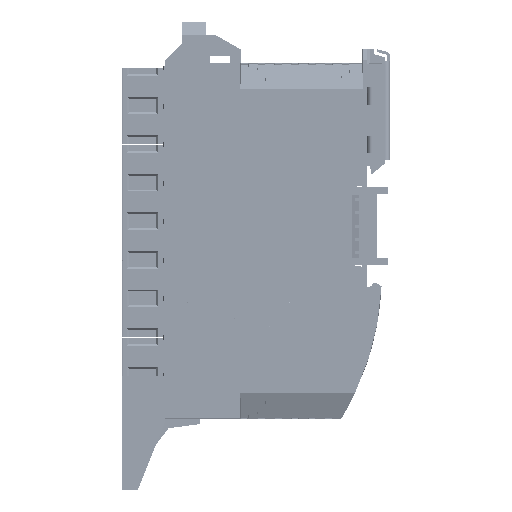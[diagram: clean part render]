
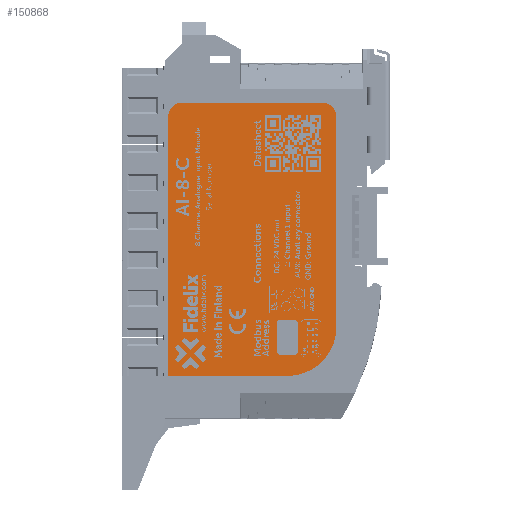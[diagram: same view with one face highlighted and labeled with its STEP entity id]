
A CAD part, left-side view. The second image highlights one B-rep face of the part: STEP entity #150868.
In plain terms, the highlighted planar face has unit normal (-1, 0, 0).
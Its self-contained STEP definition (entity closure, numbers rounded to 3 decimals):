
#1925=CIRCLE('',#158842,1.);
#1927=CIRCLE('',#158846,1.);
#1929=CIRCLE('',#158850,1.);
#1931=CIRCLE('',#158854,1.);
#1933=CIRCLE('',#158859,4.);
#1935=CIRCLE('',#158863,4.);
#1937=CIRCLE('',#158867,14.);
#3564=FACE_BOUND('',#18998,.T.);
#10896=FACE_OUTER_BOUND('',#18997,.T.);
#18997=EDGE_LOOP('',(#111611,#111612,#111613,#111614,#111615,#111616,#111617));
#18998=EDGE_LOOP('',(#111618,#111619,#111620,#111621,#111622,#111623,#111624,
#111625));
#31254=LINE('',#293312,#47964);
#31258=LINE('',#293324,#47968);
#31262=LINE('',#293336,#47972);
#31266=LINE('',#293348,#47976);
#31270=LINE('',#293360,#47980);
#31273=LINE('',#293366,#47983);
#31277=LINE('',#293378,#47987);
#31281=LINE('',#293390,#47991);
#47964=VECTOR('',#180078,1000.);
#47968=VECTOR('',#180090,1000.);
#47972=VECTOR('',#180102,1000.);
#47976=VECTOR('',#180114,1000.);
#47980=VECTOR('',#180126,1000.);
#47983=VECTOR('',#180131,1000.);
#47987=VECTOR('',#180143,1000.);
#47991=VECTOR('',#180155,1000.);
#63271=VERTEX_POINT('',#293309);
#63272=VERTEX_POINT('',#293311);
#63274=VERTEX_POINT('',#293317);
#63276=VERTEX_POINT('',#293323);
#63278=VERTEX_POINT('',#293329);
#63280=VERTEX_POINT('',#293335);
#63282=VERTEX_POINT('',#293341);
#63284=VERTEX_POINT('',#293347);
#63287=VERTEX_POINT('',#293357);
#63288=VERTEX_POINT('',#293359);
#63290=VERTEX_POINT('',#293365);
#63292=VERTEX_POINT('',#293371);
#63294=VERTEX_POINT('',#293377);
#63296=VERTEX_POINT('',#293383);
#63298=VERTEX_POINT('',#293389);
#80544=EDGE_CURVE('',#63272,#63271,#31254,.T.);
#80547=EDGE_CURVE('',#63274,#63272,#1925,.T.);
#80550=EDGE_CURVE('',#63276,#63274,#31258,.T.);
#80553=EDGE_CURVE('',#63278,#63276,#1927,.T.);
#80556=EDGE_CURVE('',#63280,#63278,#31262,.T.);
#80559=EDGE_CURVE('',#63282,#63280,#1929,.T.);
#80562=EDGE_CURVE('',#63284,#63282,#31266,.T.);
#80565=EDGE_CURVE('',#63271,#63284,#1931,.T.);
#80568=EDGE_CURVE('',#63288,#63287,#31270,.T.);
#80571=EDGE_CURVE('',#63290,#63288,#31273,.T.);
#80574=EDGE_CURVE('',#63292,#63290,#1933,.T.);
#80577=EDGE_CURVE('',#63294,#63292,#31277,.T.);
#80580=EDGE_CURVE('',#63296,#63294,#1935,.T.);
#80583=EDGE_CURVE('',#63298,#63296,#31281,.T.);
#80586=EDGE_CURVE('',#63287,#63298,#1937,.T.);
#111611=ORIENTED_EDGE('',*,*,#80586,.T.);
#111612=ORIENTED_EDGE('',*,*,#80583,.T.);
#111613=ORIENTED_EDGE('',*,*,#80580,.T.);
#111614=ORIENTED_EDGE('',*,*,#80577,.T.);
#111615=ORIENTED_EDGE('',*,*,#80574,.T.);
#111616=ORIENTED_EDGE('',*,*,#80571,.T.);
#111617=ORIENTED_EDGE('',*,*,#80568,.T.);
#111618=ORIENTED_EDGE('',*,*,#80565,.T.);
#111619=ORIENTED_EDGE('',*,*,#80562,.T.);
#111620=ORIENTED_EDGE('',*,*,#80559,.T.);
#111621=ORIENTED_EDGE('',*,*,#80556,.T.);
#111622=ORIENTED_EDGE('',*,*,#80553,.T.);
#111623=ORIENTED_EDGE('',*,*,#80550,.T.);
#111624=ORIENTED_EDGE('',*,*,#80547,.T.);
#111625=ORIENTED_EDGE('',*,*,#80544,.T.);
#135712=PLANE('',#158868);
#150868=ADVANCED_FACE('',(#10896,#3564),#135712,.T.);
#158842=AXIS2_PLACEMENT_3D('',#293318,#180084,#180085);
#158846=AXIS2_PLACEMENT_3D('',#293330,#180096,#180097);
#158850=AXIS2_PLACEMENT_3D('',#293342,#180108,#180109);
#158854=AXIS2_PLACEMENT_3D('',#293352,#180120,#180121);
#158859=AXIS2_PLACEMENT_3D('',#293372,#180137,#180138);
#158863=AXIS2_PLACEMENT_3D('',#293384,#180149,#180150);
#158867=AXIS2_PLACEMENT_3D('',#293394,#180161,#180162);
#158868=AXIS2_PLACEMENT_3D('',#293395,#180163,#180164);
#180078=DIRECTION('',(0.,0.,-1.));
#180084=DIRECTION('center_axis',(1.,0.,0.));
#180085=DIRECTION('ref_axis',(0.,-1.,0.));
#180090=DIRECTION('',(0.,-1.,0.));
#180096=DIRECTION('center_axis',(1.,0.,0.));
#180097=DIRECTION('ref_axis',(0.,0.,
1.));
#180102=DIRECTION('',(0.,0.,1.));
#180108=DIRECTION('center_axis',(1.,0.,0.));
#180109=DIRECTION('ref_axis',(0.,1.,0.));
#180114=DIRECTION('',(0.,1.,0.));
#180120=DIRECTION('center_axis',(1.,0.,0.));
#180121=DIRECTION('ref_axis',(0.,0.,
-1.));
#180126=DIRECTION('',(0.,-1.,0.));
#180131=DIRECTION('',(0.,0.,-1.));
#180137=DIRECTION('center_axis',(-1.,0.,0.));
#180138=DIRECTION('ref_axis',(0.,0.,
1.));
#180143=DIRECTION('',(0.,1.,0.));
#180149=DIRECTION('center_axis',(-1.,0.,0.));
#180150=DIRECTION('ref_axis',(0.,-1.,0.));
#180155=DIRECTION('',(0.,0.,1.));
#180161=DIRECTION('center_axis',(-1.,0.,0.));
#180162=DIRECTION('ref_axis',(0.,0.,
-1.));
#180163=DIRECTION('center_axis',(-1.,0.,0.));
#180164=DIRECTION('ref_axis',(0.,-1.,0.));
#293309=CARTESIAN_POINT('',(-9.5,19.7,-94.02));
#293311=CARTESIAN_POINT('',(-9.5,19.7,-86.02));
#293312=CARTESIAN_POINT('',(-9.5,19.7,-94.02));
#293317=CARTESIAN_POINT('',(-9.5,20.7,-85.02));
#293318=CARTESIAN_POINT('Origin',(-9.5,20.7,-86.02));
#293323=CARTESIAN_POINT('',(-9.5,24.7,-85.02));
#293324=CARTESIAN_POINT('',(-9.5,20.7,-85.02));
#293329=CARTESIAN_POINT('',(-9.5,25.7,-86.02));
#293330=CARTESIAN_POINT('Origin',(-9.5,24.7,-86.02));
#293335=CARTESIAN_POINT('',(-9.5,25.7,-94.02));
#293336=CARTESIAN_POINT('',(-9.5,25.7,-86.02));
#293341=CARTESIAN_POINT('',(-9.5,24.7,-95.02));
#293342=CARTESIAN_POINT('Origin',(-9.5,24.7,-94.02));
#293347=CARTESIAN_POINT('',(-9.5,20.7,-95.02));
#293348=CARTESIAN_POINT('',(-9.5,24.7,-95.02));
#293352=CARTESIAN_POINT('Origin',(-9.5,20.7,-94.02));
#293357=CARTESIAN_POINT('',(-9.5,22.7,-101.02));
#293359=CARTESIAN_POINT('',(-9.5,56.7,-101.02));
#293360=CARTESIAN_POINT('',(-9.5,56.7,-101.02));
#293365=CARTESIAN_POINT('',(-9.5,56.7,-27.02));
#293366=CARTESIAN_POINT('',(-9.5,56.7,-27.02));
#293371=CARTESIAN_POINT('',(-9.5,52.7,-23.02));
#293372=CARTESIAN_POINT('Origin',(-9.5,52.7,-27.02));
#293377=CARTESIAN_POINT('',(-9.5,12.7,-23.02));
#293378=CARTESIAN_POINT('',(-9.5,12.7,-23.02));
#293383=CARTESIAN_POINT('',(-9.5,8.7,-27.02));
#293384=CARTESIAN_POINT('Origin',(-9.5,12.7,-27.02));
#293389=CARTESIAN_POINT('',(-9.5,8.7,-87.02));
#293390=CARTESIAN_POINT('',(-9.5,8.7,-87.02));
#293394=CARTESIAN_POINT('Origin',(-9.5,22.7,-87.02));
#293395=CARTESIAN_POINT('Origin',(-9.5,32.7,-62.02));
